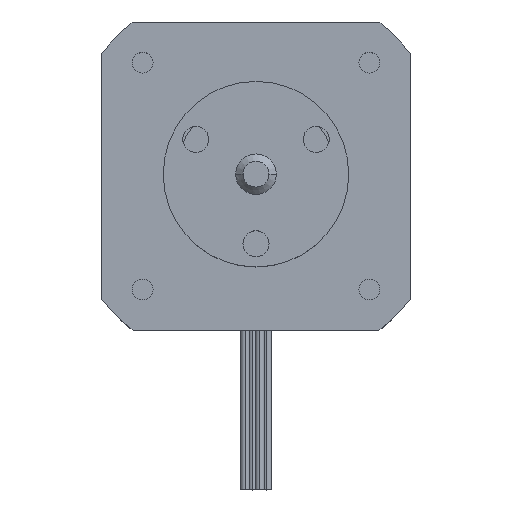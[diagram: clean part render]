
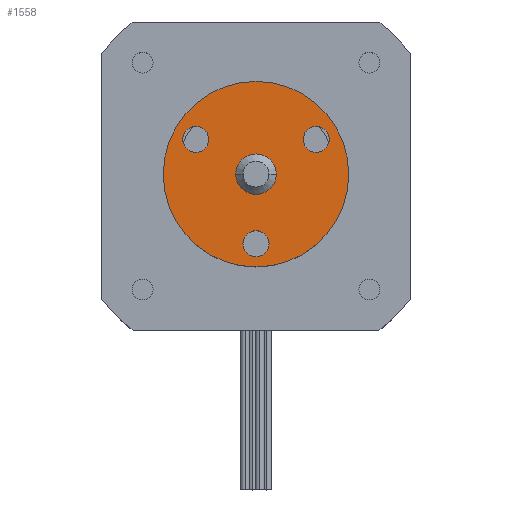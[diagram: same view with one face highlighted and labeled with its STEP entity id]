
A CAD part, top view. The second image highlights one B-rep face of the part: STEP entity #1558.
In plain terms, the highlighted planar face has unit normal (0, 0, 1).
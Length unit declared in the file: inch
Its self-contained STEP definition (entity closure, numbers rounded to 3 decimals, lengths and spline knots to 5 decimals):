
#36 = CARTESIAN_POINT ( 'NONE',  ( -0.39484, 0.1875, 0. ) ) ;
#48 = CIRCLE ( 'NONE', #2292, 0.07008 ) ;
#60 = ORIENTED_EDGE ( 'NONE', *, *, #1926, .F. ) ;
#97 = CARTESIAN_POINT ( 'NONE',  ( 0.39484, 0.1875, 0. ) ) ;
#139 = AXIS2_PLACEMENT_3D ( 'NONE', #1852, #2322, #2858 ) ;
#150 = EDGE_LOOP ( 'NONE', ( #2568, #60 ) ) ;
#209 = DIRECTION ( 'NONE',  ( 1., 0., 0. ) ) ;
#284 = VERTEX_POINT ( 'NONE', #302 ) ;
#298 = VERTEX_POINT ( 'NONE', #333 ) ;
#302 = CARTESIAN_POINT ( 'NONE',  ( 0.109, 0., 0. ) ) ;
#309 = VERTEX_POINT ( 'NONE', #2836 ) ;
#333 = CARTESIAN_POINT ( 'NONE',  ( 0.5, 0., 0. ) ) ;
#334 = AXIS2_PLACEMENT_3D ( 'NONE', #1575, #847, #2796 ) ;
#345 = DIRECTION ( 'NONE',  ( 0., 0., 1. ) ) ;
#424 = DIRECTION ( 'NONE',  ( 0., 0., 1. ) ) ;
#476 = ORIENTED_EDGE ( 'NONE', *, *, #1458, .F. ) ;
#480 = VERTEX_POINT ( 'NONE', #3006 ) ;
#592 = FACE_BOUND ( 'NONE', #2406, .T. ) ;
#630 = AXIS2_PLACEMENT_3D ( 'NONE', #894, #424, #1899 ) ;
#697 = DIRECTION ( 'NONE',  ( 1., 0., 0. ) ) ;
#714 = CIRCLE ( 'NONE', #1121, 0.07008 ) ;
#728 = VERTEX_POINT ( 'NONE', #2429 ) ;
#830 = CIRCLE ( 'NONE', #934, 0.5 ) ;
#847 = DIRECTION ( 'NONE',  ( 0., 0., 1. ) ) ;
#894 = CARTESIAN_POINT ( 'NONE',  ( 0.32476, 0.1875, 0. ) ) ;
#920 = DIRECTION ( 'NONE',  ( 0., 0., 1. ) ) ;
#934 = AXIS2_PLACEMENT_3D ( 'NONE', #2175, #2689, #1696 ) ;
#964 = AXIS2_PLACEMENT_3D ( 'NONE', #2295, #1283, #3051 ) ;
#1017 = CIRCLE ( 'NONE', #1431, 0.07008 ) ;
#1060 = FACE_OUTER_BOUND ( 'NONE', #1382, .T. ) ;
#1075 = DIRECTION ( 'NONE',  ( 1., 0., 0. ) ) ;
#1110 = FACE_BOUND ( 'NONE', #3109, .T. ) ;
#1121 = AXIS2_PLACEMENT_3D ( 'NONE', #2706, #1664, #1151 ) ;
#1150 = VERTEX_POINT ( 'NONE', #97 ) ;
#1151 = DIRECTION ( 'NONE',  ( 1., 0., 0. ) ) ;
#1159 = EDGE_CURVE ( 'NONE', #1150, #1809, #1611, .T. ) ;
#1175 = EDGE_CURVE ( 'NONE', #298, #480, #830, .T. ) ;
#1268 = CIRCLE ( 'NONE', #964, 0.5 ) ;
#1276 = ORIENTED_EDGE ( 'NONE', *, *, #1175, .T. ) ;
#1283 = DIRECTION ( 'NONE',  ( 0., 0., 1. ) ) ;
#1317 = VERTEX_POINT ( 'NONE', #1512 ) ;
#1354 = ORIENTED_EDGE ( 'NONE', *, *, #2914, .F. ) ;
#1371 = CARTESIAN_POINT ( 'NONE',  ( -0.25468, 0.1875, 0. ) ) ;
#1382 = EDGE_LOOP ( 'NONE', ( #1276, #1939 ) ) ;
#1431 = AXIS2_PLACEMENT_3D ( 'NONE', #1469, #1952, #697 ) ;
#1458 = EDGE_CURVE ( 'NONE', #728, #1317, #48, .T. ) ;
#1469 = CARTESIAN_POINT ( 'NONE',  ( -0.32476, 0.1875, 0. ) ) ;
#1512 = CARTESIAN_POINT ( 'NONE',  ( 0.07008, -0.375, 0. ) ) ;
#1558 = ADVANCED_FACE ( 'NONE', ( #1110, #2393, #1892, #592, #1060 ), #2121, .F. ) ;
#1575 = CARTESIAN_POINT ( 'NONE',  ( 0., 0., 0. ) ) ;
#1583 = VERTEX_POINT ( 'NONE', #1371 ) ;
#1590 = CIRCLE ( 'NONE', #334, 0.109 ) ;
#1611 = CIRCLE ( 'NONE', #630, 0.07008 ) ;
#1615 = CARTESIAN_POINT ( 'NONE',  ( 0.25468, 0.1875, 0. ) ) ;
#1655 = CARTESIAN_POINT ( 'NONE',  ( 0., -0.375, 0. ) ) ;
#1662 = EDGE_CURVE ( 'NONE', #1583, #2626, #1017, .T. ) ;
#1664 = DIRECTION ( 'NONE',  ( 0., 0., 1. ) ) ;
#1675 = DIRECTION ( 'NONE',  ( 1., 0., 0. ) ) ;
#1696 = DIRECTION ( 'NONE',  ( 1., 0., 0. ) ) ;
#1725 = CARTESIAN_POINT ( 'NONE',  ( 0., -0.375, 0. ) ) ;
#1734 = ORIENTED_EDGE ( 'NONE', *, *, #2181, .F. ) ;
#1768 = AXIS2_PLACEMENT_3D ( 'NONE', #1874, #2575, #1815 ) ;
#1809 = VERTEX_POINT ( 'NONE', #1615 ) ;
#1815 = DIRECTION ( 'NONE',  ( -1., 0., 0. ) ) ;
#1822 = CIRCLE ( 'NONE', #2605, 0.07008 ) ;
#1852 = CARTESIAN_POINT ( 'NONE',  ( 0.32476, 0.1875, 0. ) ) ;
#1874 = CARTESIAN_POINT ( 'NONE',  ( 0., 0., 0. ) ) ;
#1892 = FACE_BOUND ( 'NONE', #2214, .T. ) ;
#1899 = DIRECTION ( 'NONE',  ( 1., 0., 0. ) ) ;
#1926 = EDGE_CURVE ( 'NONE', #1809, #1150, #2537, .T. ) ;
#1939 = ORIENTED_EDGE ( 'NONE', *, *, #2321, .T. ) ;
#1951 = EDGE_CURVE ( 'NONE', #2626, #1583, #714, .T. ) ;
#1952 = DIRECTION ( 'NONE',  ( 0., 0., 1. ) ) ;
#2121 = PLANE ( 'NONE',  #1768 ) ;
#2175 = CARTESIAN_POINT ( 'NONE',  ( 0., 0., 0. ) ) ;
#2181 = EDGE_CURVE ( 'NONE', #309, #284, #1590, .T. ) ;
#2214 = EDGE_LOOP ( 'NONE', ( #1354, #476 ) ) ;
#2224 = ORIENTED_EDGE ( 'NONE', *, *, #1662, .F. ) ;
#2292 = AXIS2_PLACEMENT_3D ( 'NONE', #1655, #920, #1675 ) ;
#2295 = CARTESIAN_POINT ( 'NONE',  ( 0., 0., 0. ) ) ;
#2321 = EDGE_CURVE ( 'NONE', #480, #298, #1268, .T. ) ;
#2322 = DIRECTION ( 'NONE',  ( 0., 0., 1. ) ) ;
#2393 = FACE_BOUND ( 'NONE', #150, .T. ) ;
#2406 = EDGE_LOOP ( 'NONE', ( #2489, #1734 ) ) ;
#2427 = EDGE_CURVE ( 'NONE', #284, #309, #3125, .T. ) ;
#2429 = CARTESIAN_POINT ( 'NONE',  ( -0.07008, -0.375, 0. ) ) ;
#2478 = AXIS2_PLACEMENT_3D ( 'NONE', #2878, #345, #1075 ) ;
#2489 = ORIENTED_EDGE ( 'NONE', *, *, #2427, .F. ) ;
#2496 = DIRECTION ( 'NONE',  ( 0., 0., 1. ) ) ;
#2537 = CIRCLE ( 'NONE', #139, 0.07008 ) ;
#2568 = ORIENTED_EDGE ( 'NONE', *, *, #1159, .F. ) ;
#2575 = DIRECTION ( 'NONE',  ( 0., 0., -1. ) ) ;
#2605 = AXIS2_PLACEMENT_3D ( 'NONE', #1725, #2496, #209 ) ;
#2626 = VERTEX_POINT ( 'NONE', #36 ) ;
#2689 = DIRECTION ( 'NONE',  ( 0., 0., 1. ) ) ;
#2706 = CARTESIAN_POINT ( 'NONE',  ( -0.32476, 0.1875, 0. ) ) ;
#2796 = DIRECTION ( 'NONE',  ( 1., 0., 0. ) ) ;
#2836 = CARTESIAN_POINT ( 'NONE',  ( -0.109, 0., 0. ) ) ;
#2858 = DIRECTION ( 'NONE',  ( 1., 0., 0. ) ) ;
#2878 = CARTESIAN_POINT ( 'NONE',  ( 0., 0., 0. ) ) ;
#2914 = EDGE_CURVE ( 'NONE', #1317, #728, #1822, .T. ) ;
#3006 = CARTESIAN_POINT ( 'NONE',  ( -0.5, 0., 0. ) ) ;
#3007 = ORIENTED_EDGE ( 'NONE', *, *, #1951, .F. ) ;
#3051 = DIRECTION ( 'NONE',  ( 1., 0., 0. ) ) ;
#3109 = EDGE_LOOP ( 'NONE', ( #2224, #3007 ) ) ;
#3125 = CIRCLE ( 'NONE', #2478, 0.109 ) ;
